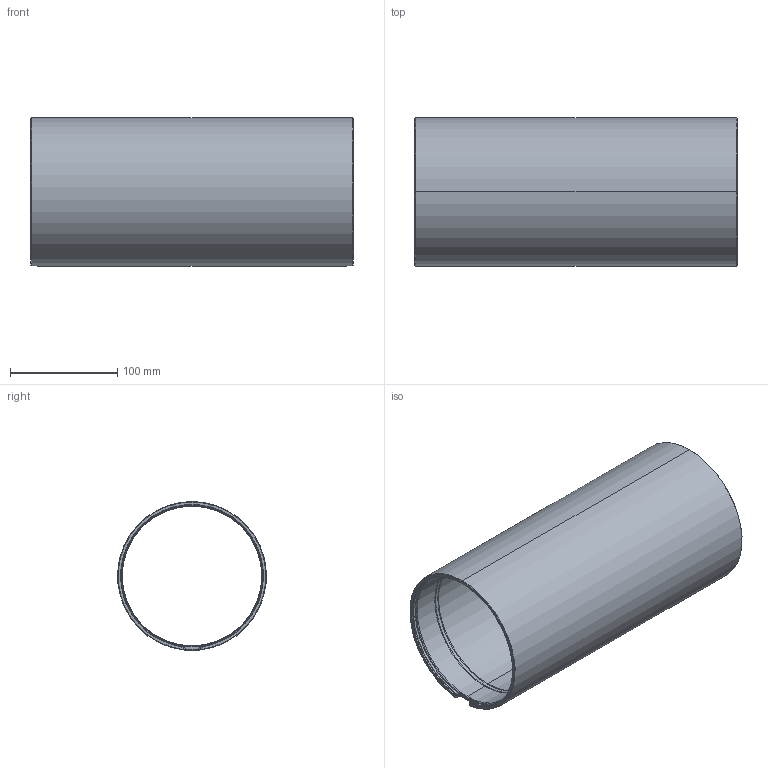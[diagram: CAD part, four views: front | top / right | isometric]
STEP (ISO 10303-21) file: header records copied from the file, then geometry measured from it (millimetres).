
FILE_DESCRIPTION (( 'STEP AP203' ), '1' );
FILE_NAME ('BR-106280-300_RevA.step', '2026-01-13T23:40:15', ( '' ), ( '' ), 'SwSTEP 2.0', 'SolidWorks 2024', '' );
FILE_SCHEMA (( 'CONFIG_CONTROL_DESIGN' ));
Length unit declared in the file: millimetre
Products named in the file (1): BR-106280-300
Bounding box: 300 x 138.4 x 138.7 mm (x, y, z)
Volume: 530019.3 mm3; surface area: 256083.4 mm2
Topology: 1 solids, 1 shells, 90 faces, 232 edges, 142 vertices
Faces by surface type: bspline 24, torus 20, cylinder 20, cone 14, plane 12
Entity records: 6077 total; most frequent: CARTESIAN_POINT 4065, ORIENTED_EDGE 464, DIRECTION 326, EDGE_CURVE 232, AXIS2_PLACEMENT_3D 143, VERTEX_POINT 142, B_SPLINE_CURVE_WITH_KNOTS 112, ADVANCED_FACE 90
